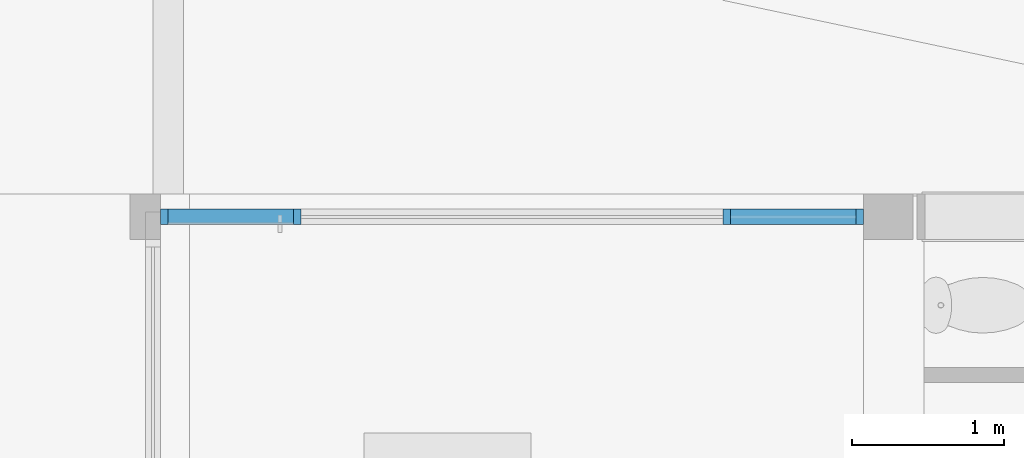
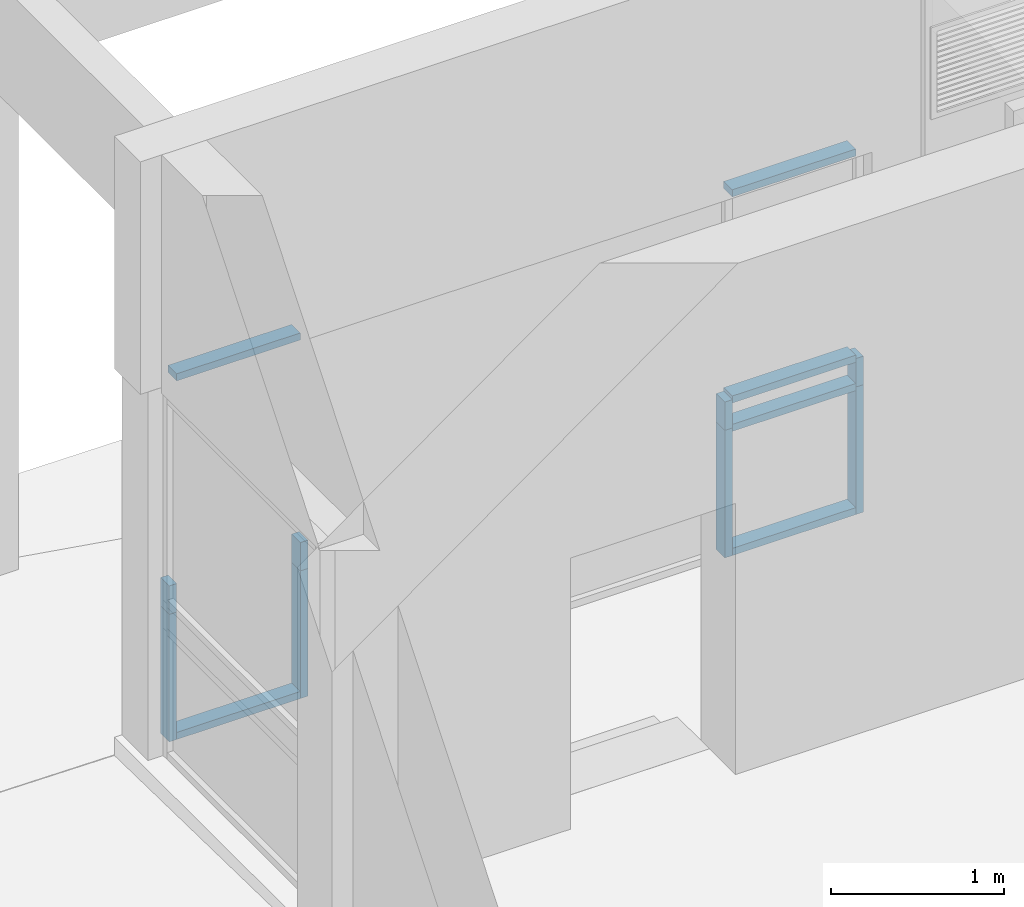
# One storey, part 27 of 117: 14 members, 1 element without a shape of its own.
"""IFC4 building model written with IfcOpenShell, lengths in metres."""

from ifc_helpers import new_model, entity, si_unit, converted_unit, derived_unit, direction, frame, origin, place, context, subcontext, project, spatial, indexed_curve, outline, extrude, source, transform, mapped, material, type_object, type_shapes, element, aggregate, save


model = new_model("IFC4")

# Units and contexts
model_context = context("Model", 3, precision=1e-05, world=origin(), true_north=direction((6.123031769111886e-17, 1.0)))
body_context = subcontext(model_context, "Body", "Model", "MODEL_VIEW")
ifc_project = project(units=[si_unit("LENGTHUNIT", "METRE"), si_unit("AREAUNIT", "SQUARE_METRE"), si_unit("VOLUMEUNIT", "CUBIC_METRE"), converted_unit("PLANEANGLEUNIT", "DEGREE", entity("IfcRatioMeasure", 0.017453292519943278), si_unit("PLANEANGLEUNIT", "RADIAN"), dimensions=[0, 0, 0, 0, 0, 0, 0]), si_unit("MASSUNIT", "GRAM", prefix="KILO"), derived_unit("MASSDENSITYUNIT", [(si_unit("MASSUNIT", "GRAM", prefix="KILO"), 1), (si_unit("LENGTHUNIT", "METRE"), -3)]), derived_unit("MOMENTOFINERTIAUNIT", [(si_unit("LENGTHUNIT", "METRE"), 4)]), si_unit("TIMEUNIT", "SECOND"), si_unit("FREQUENCYUNIT", "HERTZ"), si_unit("THERMODYNAMICTEMPERATUREUNIT", "DEGREE_CELSIUS"), derived_unit("THERMALTRANSMITTANCEUNIT", [(si_unit("MASSUNIT", "GRAM", prefix="KILO"), 1), (si_unit("THERMODYNAMICTEMPERATUREUNIT", "KELVIN"), -1), (si_unit("TIMEUNIT", "SECOND"), -3)]), derived_unit("VOLUMETRICFLOWRATEUNIT", [(si_unit("LENGTHUNIT", "METRE"), 3), (si_unit("TIMEUNIT", "SECOND"), -1)]), derived_unit("MASSFLOWRATEUNIT", [(si_unit("MASSUNIT", "GRAM", prefix="KILO"), 1), (si_unit("TIMEUNIT", "SECOND"), -1)]), derived_unit("ROTATIONALFREQUENCYUNIT", [(si_unit("TIMEUNIT", "SECOND"), -1)]), si_unit("ELECTRICCURRENTUNIT", "AMPERE"), si_unit("ELECTRICVOLTAGEUNIT", "VOLT"), si_unit("POWERUNIT", "WATT"), si_unit("FORCEUNIT", "NEWTON", prefix="KILO"), si_unit("ILLUMINANCEUNIT", "LUX"), si_unit("LUMINOUSFLUXUNIT", "LUMEN"), si_unit("LUMINOUSINTENSITYUNIT", "CANDELA"), derived_unit("USERDEFINED", [(si_unit("MASSUNIT", "GRAM", prefix="KILO"), -1), (si_unit("LENGTHUNIT", "METRE"), -2), (si_unit("TIMEUNIT", "SECOND"), 3), (si_unit("LUMINOUSFLUXUNIT", "LUMEN"), 1)]), derived_unit("SOUNDPOWERUNIT", [(si_unit("MASSUNIT", "GRAM", prefix="KILO"), 1), (si_unit("LENGTHUNIT", "METRE"), 2), (si_unit("TIMEUNIT", "SECOND"), -3)]), derived_unit("SOUNDPRESSUREUNIT", [(si_unit("MASSUNIT", "GRAM", prefix="KILO"), 1), (si_unit("LENGTHUNIT", "METRE"), -1), (si_unit("TIMEUNIT", "SECOND"), -2)]), derived_unit("LINEARVELOCITYUNIT", [(si_unit("LENGTHUNIT", "METRE"), 1), (si_unit("TIMEUNIT", "SECOND"), -1)]), si_unit("PRESSUREUNIT", "PASCAL"), derived_unit("USERDEFINED", [(si_unit("LENGTHUNIT", "METRE"), -2), (si_unit("MASSUNIT", "GRAM", prefix="KILO"), 1), (si_unit("TIMEUNIT", "SECOND"), -2)]), derived_unit("LINEARFORCEUNIT", [(si_unit("MASSUNIT", "GRAM", prefix="KILO"), 1), (si_unit("LENGTHUNIT", "METRE"), 1), (si_unit("TIMEUNIT", "SECOND"), -2), (si_unit("LENGTHUNIT", "METRE"), -1)]), derived_unit("PLANARFORCEUNIT", [(si_unit("MASSUNIT", "GRAM", prefix="KILO"), 1), (si_unit("LENGTHUNIT", "METRE"), 1), (si_unit("TIMEUNIT", "SECOND"), -2), (si_unit("LENGTHUNIT", "METRE"), -2)])], contexts=[model_context])

# Site, building, storey
site_placement = place(None, origin())
site = spatial("IfcSite", under=ifc_project, at=site_placement, Name="Superficie", CompositionType="ELEMENT")
building_placement = place(site_placement, origin())
building = spatial("IfcBuilding", under=site, at=building_placement, CompositionType="ELEMENT")
storey_placement = place(building_placement, origin())
storey = spatial("IfcBuildingStorey", under=building, at=storey_placement, Name="Nivel 0", CompositionType="ELEMENT", Elevation=0.0)

# Curtain wall, members
curtain_wall_type = type_object("IfcCurtainWallType", Name="Muro cortina:Muro cortina - simple", PredefinedType="NOTDEFINED")
curtain_wall_placement = place(storey_placement, origin())
curtain_wall = element("IfcCurtainWall", 1, at=curtain_wall_placement, inside=storey, type_object=curtain_wall_type, Name="Muro cortina:Muro cortina - simple", ObjectType="Muro cortina:Muro cortina - simple", PredefinedType="NOTDEFINED")
ifc_material = material(Name="<Unnamed>")
member_type_1 = type_object("IfcMemberType", Name="Montante rectangular:Montante rectangular - 5 x 10 cm", PredefinedType="MULLION", material=ifc_material)
shared_shape_1 = source(origin(), body_context, "Body", "SweptSolid", [
    extrude(outline(indexed_curve([(-0.05, -0.025), (0.05, -0.025), (0.05, 0.025), (-0.05, 0.025), (-0.05, -0.025)], self_intersect=False)), frame((-0.025, 0.0, -0.8249999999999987), z_axis=(0.0, 0.0, 1.0), x_axis=(0.0, -1.0, 0.0)), (0.0, 0.0, 1.0), 0.824999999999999),
])
type_shapes(member_type_1, [shared_shape_1])
member_1_placement = place(curtain_wall_placement, frame((16.831001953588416, 12.734548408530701, 2.26), z_axis=(1.0, 0.0, 0.0), x_axis=(0.0, 0.0, 1.0)))
member_1 = element("IfcMember", 2, at=member_1_placement, type_object=member_type_1, material=ifc_material, Name="Montante rectangular:Montante rectangular - 5 x 10 cm", ObjectType="Montante rectangular:Montante rectangular - 5 x 10 cm", PredefinedType="MULLION", context=body_context, shape_type="MappedRepresentation", body=[
    mapped(shared_shape_1, transform((0.0, 0.0, 0.0), scale=1.0)),
])
member_2_placement = place(curtain_wall_placement, frame((20.536799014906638, 12.734548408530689, 2.26), z_axis=(1.0, 0.0, 0.0), x_axis=(0.0, 0.0, 1.0)))
member_2 = element("IfcMember", 3, at=member_2_placement, type_object=member_type_1, material=ifc_material, Name="Montante rectangular:Montante rectangular - 5 x 10 cm", ObjectType="Montante rectangular:Montante rectangular - 5 x 10 cm", PredefinedType="MULLION", context=body_context, shape_type="MappedRepresentation", body=[
    mapped(shared_shape_1, transform((0.0, 0.0, 0.0), scale=1.0)),
])
member_type_2 = type_object("IfcMemberType", Name="Montante rectangular:Montante rectangular - 5 x 10 cm", PredefinedType="MULLION", material=ifc_material)
shared_shape_2 = source(origin(), body_context, "Body", "SweptSolid", [
    extrude(outline(indexed_curve([(-0.05, -0.025), (0.05, -0.025), (0.05, 0.025), (-0.05, 0.025), (-0.05, -0.025)], self_intersect=False)), frame((0.0, 0.0, -0.8250000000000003), z_axis=(0.0, 0.0, 1.0), x_axis=(0.0, -1.0, 0.0)), (0.0, 0.0, 1.0), 0.8249999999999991),
])
type_shapes(member_type_2, [shared_shape_2])
member_3_placement = place(curtain_wall_placement, frame((20.536799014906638, 12.734548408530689, 0.7809731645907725), z_axis=(1.0, 0.0, 0.0), x_axis=(0.0, 0.0, 1.0)))
member_3 = element("IfcMember", 4, at=member_3_placement, type_object=member_type_2, material=ifc_material, Name="Montante rectangular:Montante rectangular - 5 x 10 cm", ObjectType="Montante rectangular:Montante rectangular - 5 x 10 cm", PredefinedType="MULLION", context=body_context, shape_type="MappedRepresentation", body=[
    mapped(shared_shape_2, transform((0.0, 0.0, 0.0), scale=1.0)),
])
member_4_placement = place(curtain_wall_placement, frame((20.536799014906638, 12.734548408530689, 0.5809731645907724), z_axis=(1.0, 0.0, 0.0), x_axis=(0.0, 0.0, 1.0)))
member_4 = element("IfcMember", 5, at=member_4_placement, type_object=member_type_2, material=ifc_material, Name="Montante rectangular:Montante rectangular - 5 x 10 cm", ObjectType="Montante rectangular:Montante rectangular - 5 x 10 cm", PredefinedType="MULLION", context=body_context, shape_type="MappedRepresentation", body=[
    mapped(shared_shape_2, transform((0.0, 0.0, 0.0), scale=1.0)),
])
member_type_3 = type_object("IfcMemberType", Name="Montante rectangular:Montante rectangular - 5 x 10 cm", PredefinedType="MULLION", material=ifc_material)
shared_shape_3 = source(origin(), body_context, "Body", "SweptSolid", [
    extrude(outline(indexed_curve([(-0.05, -0.025), (0.05, -0.025), (0.05, 0.025), (-0.05, 0.025), (-0.05, -0.025)], self_intersect=False)), frame((0.0, 0.0, -0.19999999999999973), z_axis=(0.0, 0.0, 1.0), x_axis=(0.0, -1.0, 0.0)), (0.0, 0.0, 1.0), 0.19999999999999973),
])
type_shapes(member_type_3, [shared_shape_3])
member_5_placement = place(curtain_wall_placement, frame((19.68679901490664, 12.73454840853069, 0.5809731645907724), z_axis=(0.0, 0.0, -1.0), x_axis=(1.0, 0.0, 0.0)))
member_5 = element("IfcMember", 6, at=member_5_placement, type_object=member_type_3, material=ifc_material, Name="Montante rectangular:Montante rectangular - 5 x 10 cm", ObjectType="Montante rectangular:Montante rectangular - 5 x 10 cm", PredefinedType="MULLION", context=body_context, shape_type="MappedRepresentation", body=[
    mapped(shared_shape_3, transform((0.0, 0.0, 0.0), scale=1.0)),
])
member_6_placement = place(curtain_wall_placement, frame((16.856001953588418, 12.734548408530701, 0.5809731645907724), z_axis=(0.0, 0.0, -1.0), x_axis=(1.0, 0.0, 0.0)))
member_6 = element("IfcMember", 7, at=member_6_placement, type_object=member_type_3, material=ifc_material, Name="Montante rectangular:Montante rectangular - 5 x 10 cm", ObjectType="Montante rectangular:Montante rectangular - 5 x 10 cm", PredefinedType="MULLION", context=body_context, shape_type="MappedRepresentation", body=[
    mapped(shared_shape_3, transform((0.0, 0.0, 0.0), scale=1.0)),
])
member_type_4 = type_object("IfcMemberType", Name="Montante rectangular:Montante rectangular - 5 x 10 cm", PredefinedType="MULLION", material=ifc_material)
shared_shape_4 = source(origin(), body_context, "Body", "SweptSolid", [
    extrude(outline(indexed_curve([(-0.05, -0.025), (0.05, -0.025), (0.05, 0.025), (-0.05, 0.025), (-0.05, -0.025)], self_intersect=False)), frame((-0.025, 0.0, -0.2), z_axis=(0.0, 0.0, 1.0), x_axis=(0.0, -1.0, 0.0)), (0.0, 0.0, 1.0), 0.2),
])
type_shapes(member_type_4, [shared_shape_4])
member_7_placement = place(curtain_wall_placement, frame((20.58679901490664, 12.734548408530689, 0.5809731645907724), z_axis=(0.0, 0.0, -1.0), x_axis=(1.0, 0.0, 0.0)))
member_7 = element("IfcMember", 8, at=member_7_placement, type_object=member_type_4, material=ifc_material, Name="Montante rectangular:Montante rectangular - 5 x 10 cm", ObjectType="Montante rectangular:Montante rectangular - 5 x 10 cm", PredefinedType="MULLION", context=body_context, shape_type="MappedRepresentation", body=[
    mapped(shared_shape_4, transform((0.0, 0.0, 0.0), scale=1.0)),
])
member_type_5 = type_object("IfcMemberType", Name="Montante rectangular:Montante rectangular - 5 x 10 cm", PredefinedType="MULLION", material=ifc_material)
shared_shape_5 = source(origin(), body_context, "Body", "SweptSolid", [
    extrude(outline(indexed_curve([(-0.05, -0.025), (0.05, -0.025), (0.05, 0.025), (-0.05, 0.025), (-0.05, -0.025)], self_intersect=False)), frame((-0.025, 0.0, -0.19999999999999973), z_axis=(0.0, 0.0, 1.0), x_axis=(0.0, -1.0, 0.0)), (0.0, 0.0, 1.0), 0.19999999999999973),
])
type_shapes(member_type_5, [shared_shape_5])
member_8_placement = place(curtain_wall_placement, frame((15.95600195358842, 12.734548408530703, 0.7809731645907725), z_axis=(0.0, 0.0, 1.0), x_axis=(-1.0, 0.0, 0.0)))
member_8 = element("IfcMember", 9, at=member_8_placement, type_object=member_type_5, material=ifc_material, Name="Montante rectangular:Montante rectangular - 5 x 10 cm", ObjectType="Montante rectangular:Montante rectangular - 5 x 10 cm", PredefinedType="MULLION", context=body_context, shape_type="MappedRepresentation", body=[
    mapped(shared_shape_5, transform((0.0, 0.0, 0.0), scale=1.0)),
])
member_type_6 = type_object("IfcMemberType", Name="Montante rectangular:Montante rectangular - 5 x 10 cm", PredefinedType="MULLION", material=ifc_material)
shared_shape_6 = source(origin(), body_context, "Body", "SweptSolid", [
    extrude(outline(indexed_curve([(-0.05, -0.025), (0.05, -0.025), (0.05, 0.025), (-0.05, 0.025), (-0.05, -0.025)], self_intersect=False)), frame((-0.025, 0.0, -0.8250000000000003), z_axis=(0.0, 0.0, 1.0), x_axis=(0.0, -1.0, 0.0)), (0.0, 0.0, 1.0), 0.8249999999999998),
])
type_shapes(member_type_6, [shared_shape_6])
member_9_placement = place(curtain_wall_placement, frame((19.71179901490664, 12.73454840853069, -0.3190268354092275), z_axis=(-1.0, 0.0, 0.0), x_axis=(0.0, 0.0, -1.0)))
member_9 = element("IfcMember", 10, at=member_9_placement, type_object=member_type_6, material=ifc_material, Name="Montante rectangular:Montante rectangular - 5 x 10 cm", ObjectType="Montante rectangular:Montante rectangular - 5 x 10 cm", PredefinedType="MULLION", context=body_context, shape_type="MappedRepresentation", body=[
    mapped(shared_shape_6, transform((0.0, 0.0, 0.0), scale=1.0)),
])
member_10_placement = place(curtain_wall_placement, frame((16.00600195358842, 12.734548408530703, -0.3190268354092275), z_axis=(-1.0, 0.0, 0.0), x_axis=(0.0, 0.0, -1.0)))
member_10 = element("IfcMember", 11, at=member_10_placement, type_object=member_type_6, material=ifc_material, Name="Montante rectangular:Montante rectangular - 5 x 10 cm", ObjectType="Montante rectangular:Montante rectangular - 5 x 10 cm", PredefinedType="MULLION", context=body_context, shape_type="MappedRepresentation", body=[
    mapped(shared_shape_6, transform((0.0, 0.0, 0.0), scale=1.0)),
])
member_type_7 = type_object("IfcMemberType", Name="Montante rectangular:Montante rectangular - 5 x 10 cm", PredefinedType="MULLION", material=ifc_material)
shared_shape_7 = source(origin(), body_context, "Body", "SweptSolid", [
    extrude(outline(indexed_curve([(-0.05, -0.025), (0.05, -0.025), (0.05, 0.025), (-0.05, 0.025), (-0.05, -0.025)], self_intersect=False)), frame((-0.025, 0.0, -0.8999999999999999), z_axis=(0.0, 0.0, 1.0), x_axis=(0.0, -1.0, 0.0)), (0.0, 0.0, 1.0), 0.8999999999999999),
])
type_shapes(member_type_7, [shared_shape_7])
member_11_placement = place(curtain_wall_placement, frame((20.58679901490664, 12.734548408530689, -0.3190268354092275), z_axis=(0.0, 0.0, -1.0), x_axis=(1.0, 0.0, 0.0)))
member_11 = element("IfcMember", 12, at=member_11_placement, type_object=member_type_7, material=ifc_material, Name="Montante rectangular:Montante rectangular - 5 x 10 cm", ObjectType="Montante rectangular:Montante rectangular - 5 x 10 cm", PredefinedType="MULLION", context=body_context, shape_type="MappedRepresentation", body=[
    mapped(shared_shape_7, transform((0.0, 0.0, 0.0), scale=1.0)),
])
member_type_8 = type_object("IfcMemberType", Name="Montante rectangular:Montante rectangular - 5 x 10 cm", PredefinedType="MULLION", material=ifc_material)
shared_shape_8 = source(origin(), body_context, "Body", "SweptSolid", [
    extrude(outline(indexed_curve([(-0.05, -0.025), (0.05, -0.025), (0.05, 0.025), (-0.05, 0.025), (-0.05, -0.025)], self_intersect=False)), frame((0.0, 0.0, -0.8999999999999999), z_axis=(0.0, 0.0, 1.0), x_axis=(0.0, -1.0, 0.0)), (0.0, 0.0, 1.0), 0.8999999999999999),
])
type_shapes(member_type_8, [shared_shape_8])
member_12_placement = place(curtain_wall_placement, frame((19.68679901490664, 12.73454840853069, -0.3190268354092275), z_axis=(0.0, 0.0, -1.0), x_axis=(1.0, 0.0, 0.0)))
member_12 = element("IfcMember", 13, at=member_12_placement, type_object=member_type_8, material=ifc_material, Name="Montante rectangular:Montante rectangular - 5 x 10 cm", ObjectType="Montante rectangular:Montante rectangular - 5 x 10 cm", PredefinedType="MULLION", context=body_context, shape_type="MappedRepresentation", body=[
    mapped(shared_shape_8, transform((0.0, 0.0, 0.0), scale=1.0)),
])
member_13_placement = place(curtain_wall_placement, frame((16.856001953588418, 12.734548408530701, -0.3190268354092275), z_axis=(0.0, 0.0, -1.0), x_axis=(1.0, 0.0, 0.0)))
member_13 = element("IfcMember", 14, at=member_13_placement, type_object=member_type_8, material=ifc_material, Name="Montante rectangular:Montante rectangular - 5 x 10 cm", ObjectType="Montante rectangular:Montante rectangular - 5 x 10 cm", PredefinedType="MULLION", context=body_context, shape_type="MappedRepresentation", body=[
    mapped(shared_shape_8, transform((0.0, 0.0, 0.0), scale=1.0)),
])
member_type_9 = type_object("IfcMemberType", Name="Montante rectangular:Montante rectangular - 5 x 10 cm", PredefinedType="MULLION", material=ifc_material)
shared_shape_9 = source(origin(), body_context, "Body", "SweptSolid", [
    extrude(outline(indexed_curve([(-0.05, -0.025), (0.05, -0.025), (0.05, 0.025), (-0.05, 0.025), (-0.05, -0.025)], self_intersect=False)), frame((-0.025, 0.0, -0.9), z_axis=(0.0, 0.0, 1.0), x_axis=(0.0, -1.0, 0.0)), (0.0, 0.0, 1.0), 0.9),
])
type_shapes(member_type_9, [shared_shape_9])
member_14_placement = place(curtain_wall_placement, frame((15.95600195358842, 12.734548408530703, 0.5809731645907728), z_axis=(0.0, 0.0, 1.0), x_axis=(-1.0, 0.0, 0.0)))
member_14 = element("IfcMember", 15, at=member_14_placement, type_object=member_type_9, material=ifc_material, Name="Montante rectangular:Montante rectangular - 5 x 10 cm", ObjectType="Montante rectangular:Montante rectangular - 5 x 10 cm", PredefinedType="MULLION", context=body_context, shape_type="MappedRepresentation", body=[
    mapped(shared_shape_9, transform((0.0, 0.0, 0.0), scale=1.0)),
])
aggregate(curtain_wall, [member_7, member_11, member_5, member_12, member_6, member_13, member_3, member_4, member_9, member_10, member_8, member_14, member_1, member_2])

save(model, "model.ifc")
